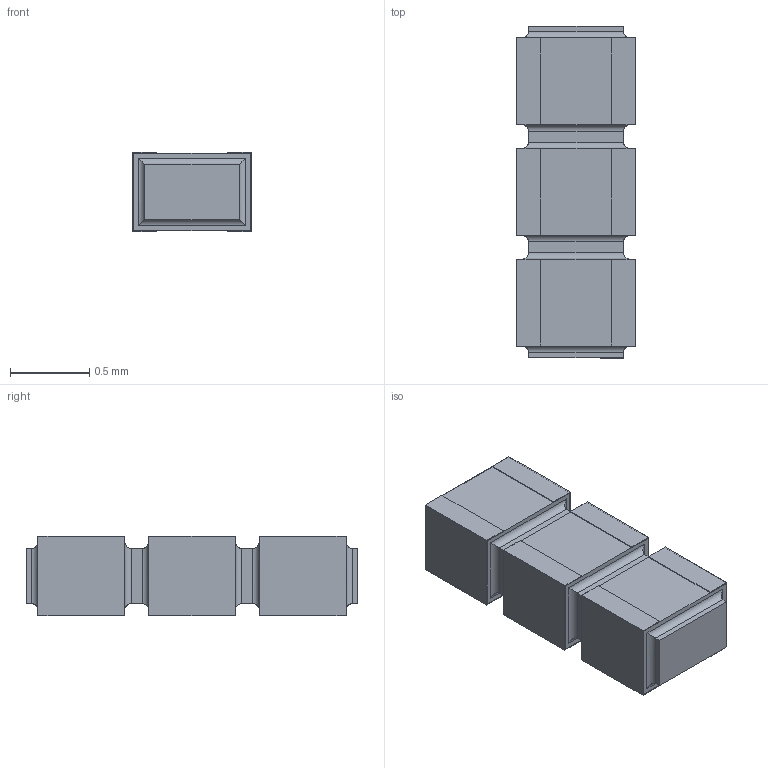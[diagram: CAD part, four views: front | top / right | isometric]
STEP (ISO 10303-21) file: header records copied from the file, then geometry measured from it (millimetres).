
FILE_DESCRIPTION(/* description */ (''),/* implementation_level */ '2;1');
FILE_NAME(/* name */ 'S:\DOCUMENT\AUTOCAD\3D_Modèles\10_3D-pour-VISHAY-COM\PRA\PRA073\PRA073-I2_à_I8\10_IGES\PRA073I3_B-or-N-or-G.stp',/* time_stamp */ '2017-12-21T10:46:29+01:00',/* author */ ('dparmentier'),/* organization */ ('unknown'),/* preprocessor_version */ 'ST-DEVELOPER v17',/* originating_system */ 'Autodesk Inventor 2018',/* authorisation */ '');
FILE_SCHEMA (('AUTOMOTIVE_DESIGN { 1 0 10303 214 3 1 1 }'));
Length unit declared in the file: millimetre
Products named in the file (1): PRA073I3_B-or-N-or-G
Bounding box: 0.75 x 2.1 x 0.5 mm (x, y, z)
Volume: 0.7 mm3; surface area: 11.4 mm2
Topology: 7 solids, 7 shells, 120 faces, 276 edges, 176 vertices
Faces by surface type: plane 96, cylinder 24
Entity records: 3359 total; most frequent: CARTESIAN_POINT 573, ORIENTED_EDGE 552, DIRECTION 542, EDGE_CURVE 276, LINE 252, VECTOR 252, VERTEX_POINT 176, AXIS2_PLACEMENT_3D 145
